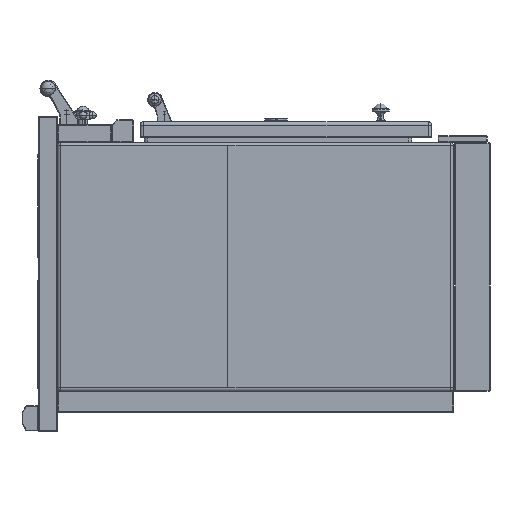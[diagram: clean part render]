
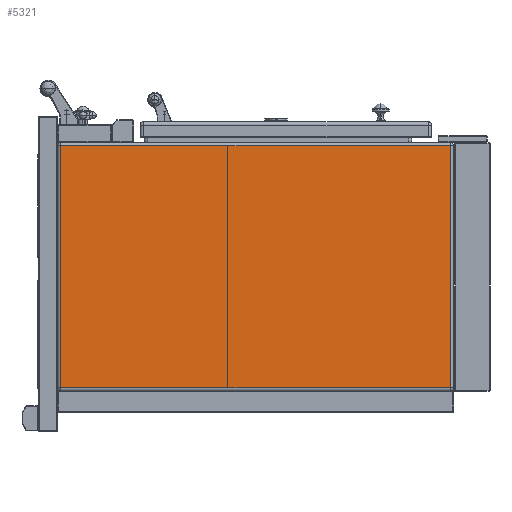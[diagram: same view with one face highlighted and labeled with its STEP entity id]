
A CAD part, left-side view. The second image highlights one B-rep face of the part: STEP entity #5321.
In plain terms, the highlighted planar face has unit normal (-1, 0, 0).
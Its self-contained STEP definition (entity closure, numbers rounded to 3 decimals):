
#443=DIRECTION('',(0.,1.,0.));
#444=VECTOR('',#443,801.);
#445=CARTESIAN_POINT('',(-1150.,82.,249.));
#446=LINE('',#445,#444);
#447=DIRECTION('',(0.,0.,1.));
#448=VECTOR('',#447,498.);
#449=CARTESIAN_POINT('',(-1150.,82.,-249.));
#450=LINE('',#449,#448);
#451=DIRECTION('',(0.,-1.,0.));
#452=VECTOR('',#451,801.);
#453=CARTESIAN_POINT('',(-1150.,883.,-249.));
#454=LINE('',#453,#452);
#455=DIRECTION('',(0.,0.,-1.));
#456=VECTOR('',#455,498.);
#457=CARTESIAN_POINT('',(-1150.,883.,249.));
#458=LINE('',#457,#456);
#3739=CARTESIAN_POINT('',(-1150.,82.,249.));
#3740=CARTESIAN_POINT('',(-1150.,883.,249.));
#3741=VERTEX_POINT('',#3739);
#3742=VERTEX_POINT('',#3740);
#3743=CARTESIAN_POINT('',(-1150.,82.,-249.));
#3744=VERTEX_POINT('',#3743);
#3761=CARTESIAN_POINT('',(-1150.,883.,-249.));
#3762=VERTEX_POINT('',#3761);
#5308=CARTESIAN_POINT('',(-1150.,0.,0.));
#5309=DIRECTION('',(1.,0.,0.));
#5310=DIRECTION('',(0.,0.,-1.));
#5311=AXIS2_PLACEMENT_3D('',#5308,#5309,#5310);
#5312=PLANE('',#5311);
#5313=ORIENTED_EDGE('',*,*,#5253,.F.);
#5314=ORIENTED_EDGE('',*,*,#5291,.F.);
#5316=ORIENTED_EDGE('',*,*,#5315,.F.);
#5318=ORIENTED_EDGE('',*,*,#5317,.F.);
#5319=EDGE_LOOP('',(#5313,#5314,#5316,#5318));
#5320=FACE_OUTER_BOUND('',#5319,.F.);
#5253=EDGE_CURVE('',#3741,#3742,#446,.T.);
#5291=EDGE_CURVE('',#3744,#3741,#450,.T.);
#5315=EDGE_CURVE('',#3762,#3744,#454,.T.);
#5317=EDGE_CURVE('',#3742,#3762,#458,.T.);
#5321=ADVANCED_FACE('',(#5320),#5312,.F.);
